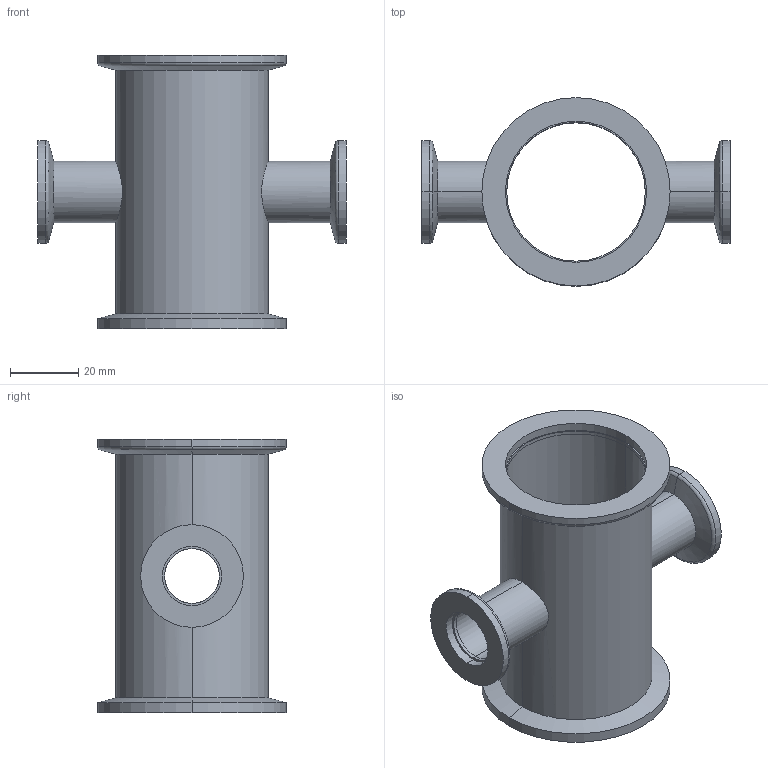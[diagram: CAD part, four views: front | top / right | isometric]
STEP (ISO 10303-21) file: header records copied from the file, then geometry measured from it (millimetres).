
FILE_DESCRIPTION (( 'STEP AP214' ), '1' );
FILE_NAME ('W3RKS40-16.STEP', '2020-08-24T13:41:11', ( '' ), ( '' ), 'SwSTEP 2.0', 'SolidWorks 2020', '' );
FILE_SCHEMA (( 'AUTOMOTIVE_DESIGN' ));
Length unit declared in the file: millimetre
Products named in the file (1): W3RKS40-16
Bounding box: 90 x 55 x 80 mm (x, y, z)
Volume: 32059.5 mm3; surface area: 33561.8 mm2
Topology: 7 solids, 7 shells, 81 faces, 170 edges, 102 vertices
Faces by surface type: cylinder 51, plane 16, cone 8, torus 6
Entity records: 2984 total; most frequent: CARTESIAN_POINT 1082, DIRECTION 410, ORIENTED_EDGE 340, AXIS2_PLACEMENT_3D 174, EDGE_CURVE 170, VERTEX_POINT 102, EDGE_LOOP 98, CIRCLE 92
